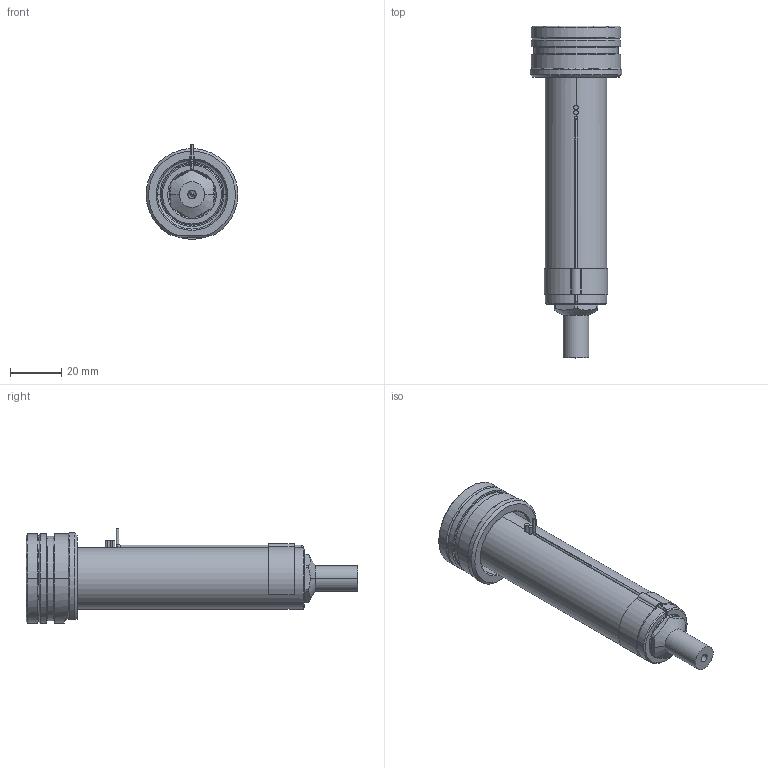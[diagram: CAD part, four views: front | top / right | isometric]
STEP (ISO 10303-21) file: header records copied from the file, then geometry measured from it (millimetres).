
FILE_DESCRIPTION((''),'2;1');
FILE_NAME('EO06_PG-FBE_STD_100_SW','2024-02-19T11:50:26',('sundharh'),(''),'CREO PARAMETRIC BY PTC INC, 2023154','CREO PARAMETRIC BY PTC INC, 2023154','');
FILE_SCHEMA(('CONFIG_CONTROL_DESIGN'));
Length unit declared in the file: millimetre
Products named in the file (1): EO06_PG-FBE_STD_100_SW
Bounding box: 35.93 x 130 x 37 mm (x, y, z)
Volume: 56830.2 mm3; surface area: 17569.6 mm2
Topology: 2 solids, 2 shells, 211 faces, 568 edges, 347 vertices
Faces by surface type: cylinder 85, plane 54, cone 42, torus 21, bspline 6, sphere 3
Entity records: 7603 total; most frequent: CARTESIAN_POINT 2240, DIRECTION 1181, ORIENTED_EDGE 1116, EDGE_CURVE 558, AXIS2_PLACEMENT_3D 496, VERTEX_POINT 347, CIRCLE 291, EDGE_LOOP 227
